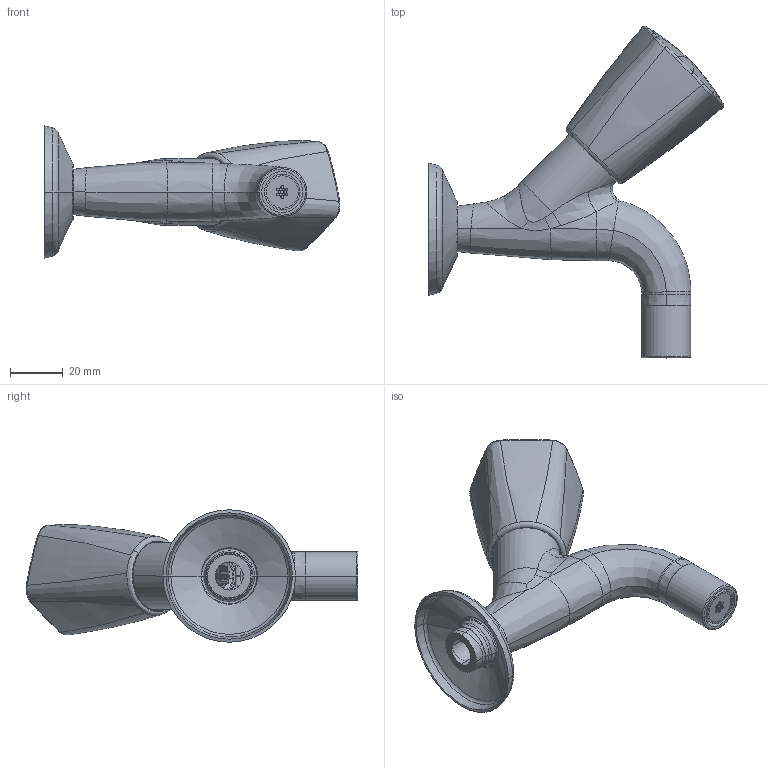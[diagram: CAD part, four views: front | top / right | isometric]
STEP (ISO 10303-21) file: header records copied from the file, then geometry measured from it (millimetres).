
FILE_DESCRIPTION((''),'2;1');
FILE_NAME('500435_ASM','2020-06-08T13:49:38',('LF994'),(''),'CREO PARAMETRIC BY PTC INC, 2018500','CREO PARAMETRIC BY PTC INC, 2018500','');
FILE_SCHEMA(('CONFIG_CONTROL_DESIGN'));
Length unit declared in the file: millimetre
Products named in the file (21): 600653_AF0; 607086; 505128_AF0_ASM; 607027; 607481; 607482; 603026; 601966; 603712; 601972; 600780; 600777; 600022; 604882; 501546_ASM; 600269_AF0; 616467; 608705; 509581_ASM; 01_5611_0; 500435_ASM
Assembly tree (20 placements, depth 3):
  500435_ASM
    505128_AF0_ASM
      600653_AF0
      607086
    501546_ASM
      607027
      607481
      607482
      603026
      601966
      603712
      601972
      600780
      600777
      600022
      604882
    600269_AF0
    509581_ASM
      616467
      608705
    01_5611_0
Bounding box: 111.74 x 125.35 x 50 mm (x, y, z)
Volume: 79161.5 mm3; surface area: 50091.9 mm2
Topology: 17 solids, 17 shells, 1092 faces, 2679 edges, 1654 vertices
Faces by surface type: cylinder 354, plane 312, bspline 197, cone 124, torus 102, sphere 2, revolution 1
Entity records: 45823 total; most frequent: CARTESIAN_POINT 21308, ORIENTED_EDGE 5338, DIRECTION 4675, EDGE_CURVE 2669, AXIS2_PLACEMENT_3D 1942, VERTEX_POINT 1654, EDGE_LOOP 1157, FACE_OUTER_BOUND 1092
